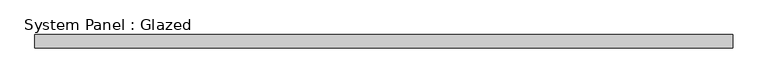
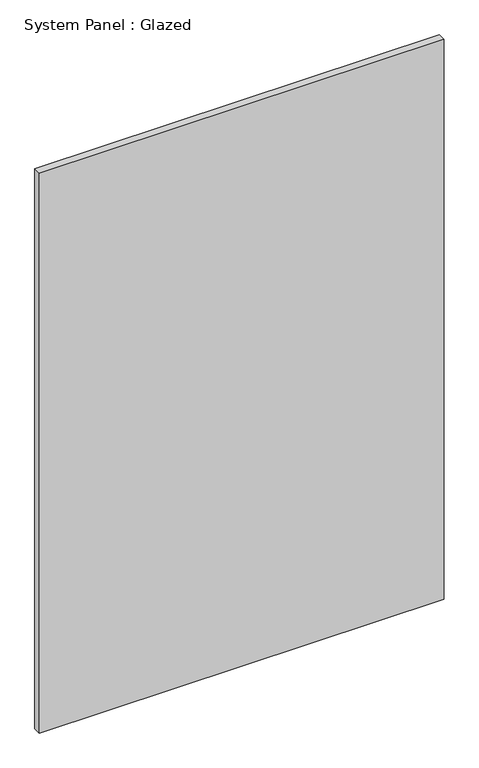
"""IFC4 building model written with IfcOpenShell, lengths in millimetres: plate geometry, System Panel : Glazed."""

from ifc_helpers import new_model, si_unit, origin, origin_with_axes, place, context, project, spatial, polyline, outline, extrude, source, transform, mapped, element, save


def system_panel_glazed_c8739ac2(model_context):
    return source(origin(), model_context, "Body", "SweptSolid", [
        extrude(outline(polyline([(669.7103582, 19.05), (-669.7103582, 19.05), (-669.7103582, 44.45), (669.7103582, 44.45), (669.7103582, 19.05)])), origin_with_axes(), (0.0, 0.0, 1.0), 1957.9166667),
    ])


if __name__ == "__main__":
    model = new_model("IFC4")
    model_context = context("Model", 3, world=origin())
    ifc_project = project(units=[si_unit("LENGTHUNIT", "METRE", prefix="MILLI")], contexts=[model_context])
    site = spatial("IfcSite", under=ifc_project)
    building = spatial("IfcBuilding", under=site)
    placement = place(None, origin())
    system_panel_glazed_shape = system_panel_glazed_c8739ac2(model_context)
    element("IfcPlate", 1, ObjectType="System Panel : Glazed", at=placement, inside=building, context=model_context, shape_type="MappedRepresentation", body=[
        mapped(system_panel_glazed_shape, transform((0.0, 0.0, 0.0), x_axis=(1.0, 0.0, 0.0), y_axis=(0.0, 1.0, 0.0), z_axis=(0.0, 0.0, 1.0))),
    ])
    save(model, "model.ifc")
